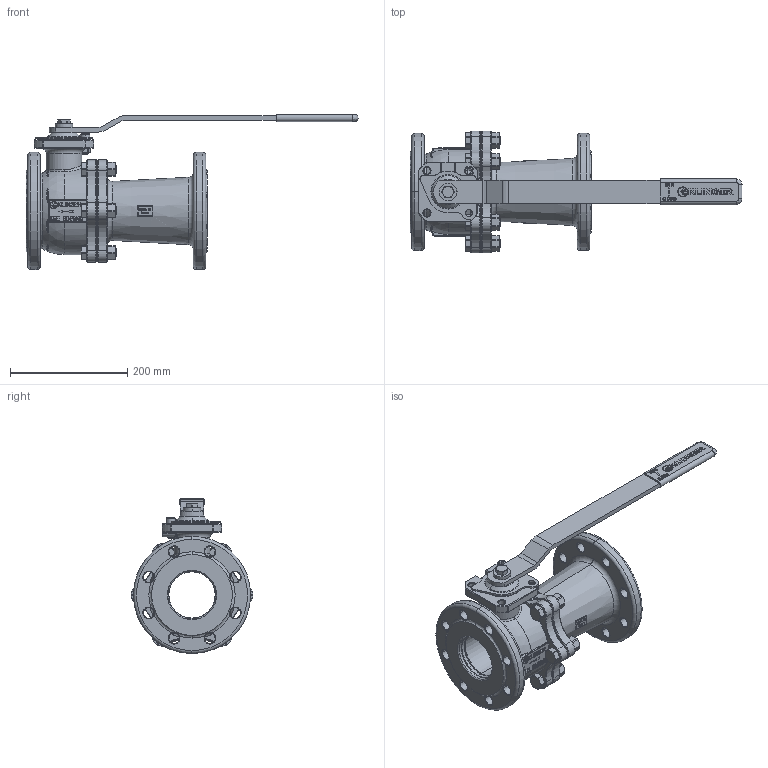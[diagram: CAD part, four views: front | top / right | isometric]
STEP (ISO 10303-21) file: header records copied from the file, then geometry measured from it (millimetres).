
FILE_DESCRIPTION((''),'2;1');
FILE_NAME('KHEFK080VFL080P040PKK','2015-08-10T',('mahrhauserh'),('RAND'),'PRO/ENGINEER BY PARAMETRIC TECHNOLOGY CORPORATION, 2013410','PRO/ENGINEER BY PARAMETRIC TECHNOLOGY CORPORATION, 2013410','');
FILE_SCHEMA(('CONFIG_CONTROL_DESIGN'));
Products named in the file (1): KHEFK080VFL080P040PKK
Bounding box: 567 x 207.88 x 264.75 mm (x, y, z)
Volume: 3591171.2 mm3; surface area: 629577.6 mm2
Topology: 1 solids, 1 shells, 3163 faces, 8438 edges, 5405 vertices
Faces by surface type: plane 2055, cylinder 431, torus 283, cone 240, bspline 140, sphere 14
Entity records: 125800 total; most frequent: CARTESIAN_POINT 47080, ORIENTED_EDGE 16872, DIRECTION 15720, EDGE_CURVE 8436, VECTOR 5922, LINE 5922, VERTEX_POINT 5405, AXIS2_PLACEMENT_3D 4899
